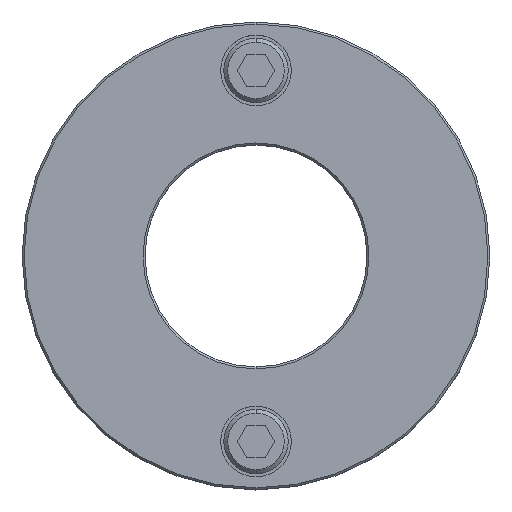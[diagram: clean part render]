
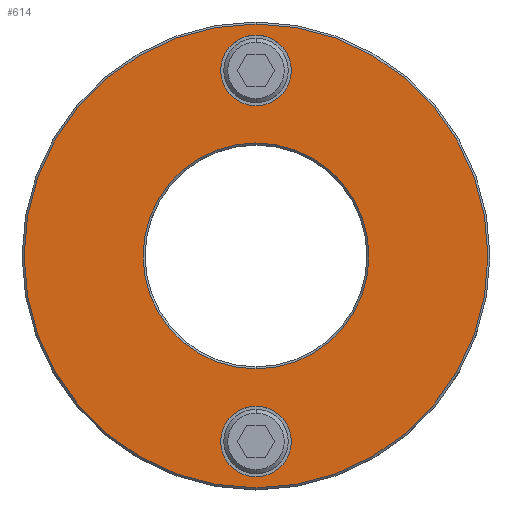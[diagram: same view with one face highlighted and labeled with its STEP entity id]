
A CAD part, top view. The second image highlights one B-rep face of the part: STEP entity #614.
In plain terms, the highlighted planar face has unit normal (0, 0, 1).
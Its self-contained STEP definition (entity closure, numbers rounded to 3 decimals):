
#105=VERTEX_POINT(' ',#106);
#106=CARTESIAN_POINT('',(0.,37.25,20.));
#107=VERTEX_POINT(' ',#108);
#108=CARTESIAN_POINT('',(0.,54.75,20.));
#113=VERTEX_POINT(' ',#114);
#114=CARTESIAN_POINT('',(0.,-54.75,20.));
#115=VERTEX_POINT(' ',#116);
#116=CARTESIAN_POINT('',(0.,-37.25,20.));
#123=VERTEX_POINT(' ',#124);
#124=CARTESIAN_POINT('',(0.,57.5,20.));
#125=VERTEX_POINT(' ',#126);
#126=CARTESIAN_POINT('',(0.,-57.5,20.));
#129=VERTEX_POINT(' ',#130);
#130=CARTESIAN_POINT('',(0.,-28.,20.));
#131=VERTEX_POINT(' ',#132);
#132=CARTESIAN_POINT('',(0.,28.,20.));
#221=CIRCLE('',#222,8.75);
#222=AXIS2_PLACEMENT_3D('',#223,#224,#225);
#223=CARTESIAN_POINT('',(0.,46.,20.));
#224=DIRECTION('',(0.,0.,-1.));
#225=DIRECTION('',(-1.,0.,0.));
#226=EDGE_CURVE(' ',#105,#107,#221,.F.);
#243=CIRCLE('',#244,8.75);
#244=AXIS2_PLACEMENT_3D('',#245,#246,#247);
#245=CARTESIAN_POINT('',(0.,46.,20.));
#246=DIRECTION('',(0.,0.,-1.));
#247=DIRECTION('',(1.,0.,0.));
#248=EDGE_CURVE(' ',#107,#105,#243,.F.);
#255=CIRCLE('',#256,8.75);
#256=AXIS2_PLACEMENT_3D('',#257,#258,#259);
#257=CARTESIAN_POINT('',(0.,-46.,20.));
#258=DIRECTION('',(0.,0.,-1.));
#259=DIRECTION('',(-1.,0.,0.));
#260=EDGE_CURVE(' ',#113,#115,#255,.F.);
#277=CIRCLE('',#278,8.75);
#278=AXIS2_PLACEMENT_3D('',#279,#280,#281);
#279=CARTESIAN_POINT('',(0.,-46.,20.));
#280=DIRECTION('',(0.,0.,-1.));
#281=DIRECTION('',(1.,0.,0.));
#282=EDGE_CURVE(' ',#115,#113,#277,.F.);
#294=CIRCLE('',#295,57.5);
#295=AXIS2_PLACEMENT_3D('',#296,#297,#298);
#296=CARTESIAN_POINT('',(0.,0.,20.));
#297=DIRECTION('',(0.,0.,1.));
#298=DIRECTION('',(-1.,0.,0.));
#299=EDGE_CURVE(' ',#123,#125,#294,.F.);
#317=CIRCLE('',#318,57.5);
#318=AXIS2_PLACEMENT_3D('',#319,#320,#321);
#319=CARTESIAN_POINT('',(0.,0.,20.));
#320=DIRECTION('',(0.,0.,1.));
#321=DIRECTION('',(1.,0.,0.));
#322=EDGE_CURVE(' ',#125,#123,#317,.F.);
#323=CIRCLE('',#324,28.);
#324=AXIS2_PLACEMENT_3D('',#325,#326,#327);
#325=CARTESIAN_POINT('',(0.,0.,20.));
#326=DIRECTION('',(0.,0.,-1.));
#327=DIRECTION('',(1.,0.,0.));
#328=EDGE_CURVE(' ',#131,#129,#323,.F.);
#329=CIRCLE('',#330,28.);
#330=AXIS2_PLACEMENT_3D('',#331,#332,#333);
#331=CARTESIAN_POINT('',(0.,0.,20.));
#332=DIRECTION('',(0.,0.,-1.));
#333=DIRECTION('',(-1.,0.,0.));
#334=EDGE_CURVE(' ',#129,#131,#329,.F.);
#593=ORIENTED_EDGE('',*,*,#299,.F.);
#594=ORIENTED_EDGE('',*,*,#322,.F.);
#595=EDGE_LOOP('',(#593,#594));
#596=FACE_OUTER_BOUND('',#595,.T.);
#597=ORIENTED_EDGE('',*,*,#328,.F.);
#598=ORIENTED_EDGE('',*,*,#334,.F.);
#599=EDGE_LOOP('',(#597,#598));
#600=FACE_BOUND('',#599,.T.);
#601=ORIENTED_EDGE('',*,*,#282,.F.);
#602=ORIENTED_EDGE('',*,*,#260,.F.);
#603=EDGE_LOOP('',(#601,#602));
#604=FACE_BOUND('',#603,.T.);
#605=ORIENTED_EDGE('',*,*,#248,.F.);
#606=ORIENTED_EDGE('',*,*,#226,.F.);
#607=EDGE_LOOP('',(#605,#606));
#608=FACE_BOUND('',#607,.T.);
#609=PLANE('',#610);
#610=AXIS2_PLACEMENT_3D('',#611,#612,#613);
#611=CARTESIAN_POINT('',(58.,0.,20.));
#612=DIRECTION('',(0.,0.,1.));
#613=DIRECTION('',(0.,1.,0.));
#614=ADVANCED_FACE('',(#596,#600,#604,#608),#609,.T.);
